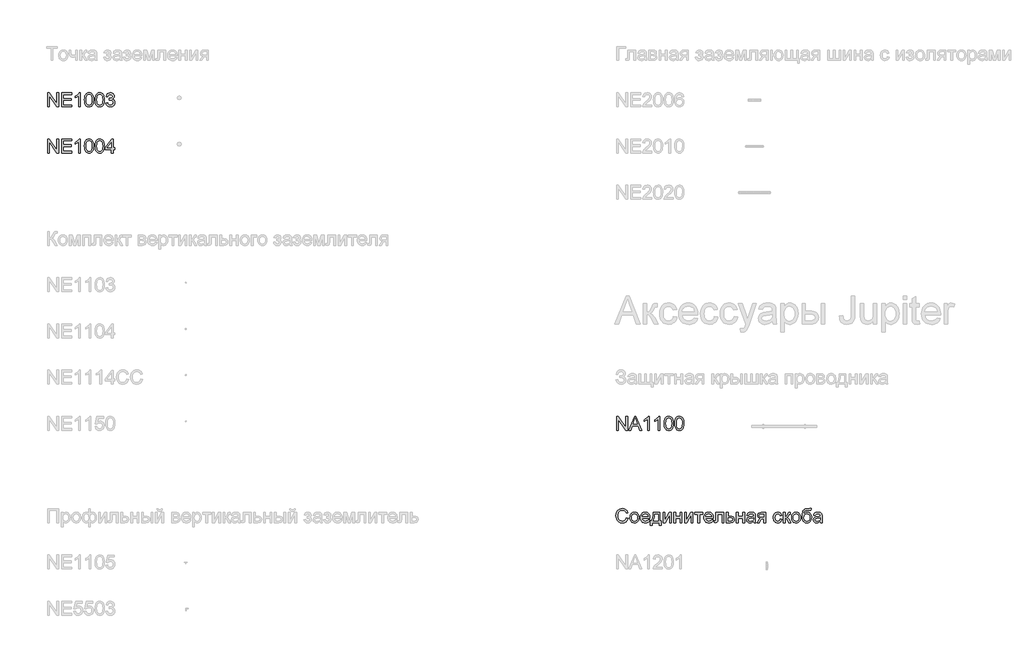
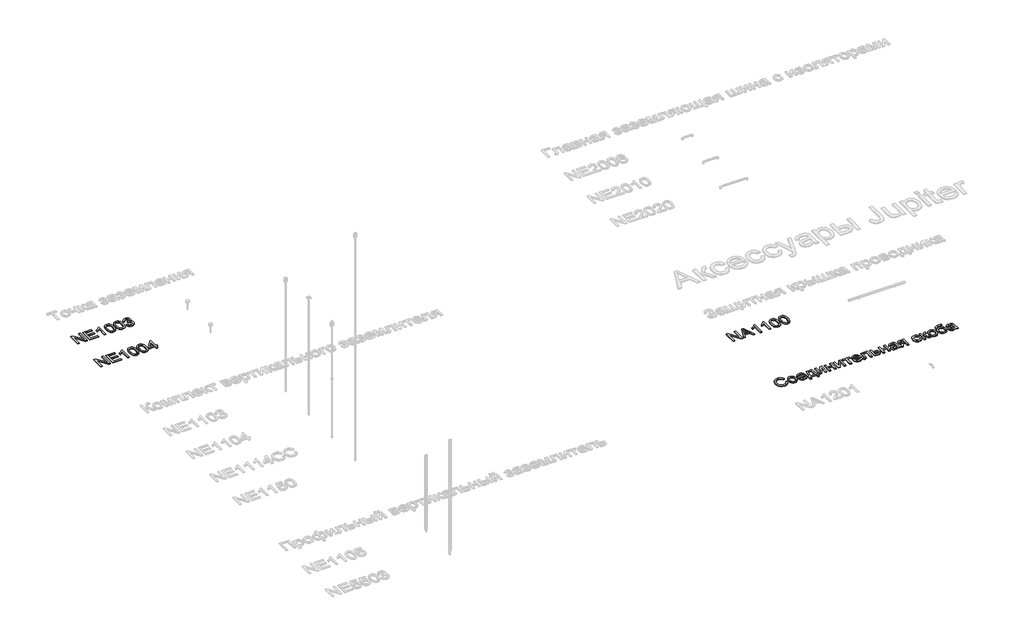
# One storey, part 75 of 124: 4 proxies.
"""IFC4 building model written with IfcOpenShell, lengths in millimetres."""

from ifc_helpers import new_model, si_unit, origin, origin_with_axes, place, context, project, spatial, polyline, outline, extrude, element, save

model = new_model("IFC4")

# Units and contexts
model_context = context("Model", 3, world=origin())
ifc_project = project(units=[si_unit("LENGTHUNIT", "METRE", prefix="MILLI")], contexts=[model_context])

# Site, building, storey
site = spatial("IfcSite", under=ifc_project)
building = spatial("IfcBuilding", under=site)
storey = spatial("IfcBuildingStorey", under=building, Name="Этаж 01", Elevation=0.0)

# Proxies
placement = place(None, origin())
element("IfcBuildingElementProxy", 1, Name="300", ObjectType="300", at=placement, inside=storey, context=model_context, shape_type="SweptSolid", body=[
    extrude(outline(polyline([(32939.8675381, -54074.498362), (32939.8675381, -53773.1294316), (32980.1874048, -53773.1294316), (33137.6408988, -54011.8848464), (33137.6408988, -53773.1294316), (33175.3120151, -53773.1294316), (33175.3120151, -54074.498362), (33134.9921484, -54074.498362), (32977.5386545, -53835.6693707), (32977.5386545, -54074.498362), (32939.8675381, -54074.498362)])), origin_with_axes(), (0.0, 0.0, 1.0), 20.0),
    extrude(outline(polyline([(33241.2364686, -54074.498362), (33241.2364686, -53773.1294316), (33457.8453874, -53773.1294316), (33457.8453874, -53810.8005479), (33278.9075849, -53810.8005479), (33278.9075849, -53900.2694491), (33448.4276083, -53900.2694491), (33448.4276083, -53937.9405654), (33278.9075849, -53937.9405654), (33278.9075849, -54036.8272457), (33462.5542769, -54036.8272457), (33462.5542769, -54074.498362), (33241.2364686, -54074.498362)])), origin_with_axes(), (0.0, 0.0, 1.0), 20.0),
    extrude(outline(polyline([(33646.2009689, -54074.498362), (33608.5298526, -54074.498362), (33608.5298526, -53839.6424963), (33572.8452991, -53865.0631421), (33533.18762, -53884.0826413), (33533.18762, -53848.4716642), (33562.7745294, -53832.3768269), (33588.4067074, -53813.228569), (33608.612626, -53792.8663006), (33621.9207572, -53773.1294316), (33646.2009689, -53773.1294316), (33646.2009689, -54074.498362)])), origin_with_axes(), (0.0, 0.0, 1.0), 20.0),
    extrude(outline(polyline([(33735.6698701, -53926.2419179), (33738.4381821, -53878.0033913), (33746.7431182, -53839.5321317), (33760.5019048, -53810.2395278), (33779.6317685, -53789.5369685), (33804.2706652, -53777.2313158), (33834.5565504, -53773.1294316), (33857.7699043, -53775.5574527), (33878.555237, -53782.8415162), (33895.9376613, -53794.6965135), (33908.9422898, -53810.8373361), (33918.7647391, -53831.1260281), (33926.6006256, -53855.4246339), (33931.7325794, -53886.2807362), (33933.4432307, -53926.2419179), (33930.7025099, -53974.2045331), (33922.4803473, -54012.5838222), (33908.8043341, -54041.9040172), (33889.7020615, -54062.68935), (33865.0079826, -54075.0777761), (33834.5565504, -54079.2072515), (33813.8080059, -54077.4138268), (33795.4139061, -54072.0335526), (33779.3742511, -54063.066429), (33765.6890409, -54050.5124559), (33752.5556537, -54027.8187353), (33743.1746628, -53999.5424055), (33737.5460683, -53965.6834664), (33735.6698701, -53926.2419179)]), holes=[polyline([(33773.3409864, -53926.1683415), (33777.7555704, -53985.4249339), (33783.2738003, -54005.6929326), (33790.9993222, -54019.7207329), (33810.7177971, -54036.0822847), (33834.5565504, -54041.5361352), (33858.3953037, -54036.0638906), (33878.1137786, -54019.6471565), (33885.8393005, -54005.5963636), (33891.3575305, -53985.3329634), (33895.7721144, -53926.1683415), (33891.5046833, -53868.2453214), (33886.1703943, -53848.0440013), (33878.7023898, -53833.682808), (33859.0207031, -53816.5211129), (33834.115092, -53810.8005479), (33810.5338561, -53815.8405312), (33791.5879334, -53830.9604812), (33783.6048941, -53846.595466), (33777.9027232, -53867.6751043), (33773.3409864, -53926.1683415)])]), origin_with_axes(), (0.0, 0.0, 1.0), 20.0),
    extrude(outline(polyline([(33966.4054575, -53926.2419179), (33969.1737695, -53878.0033913), (33977.4787055, -53839.5321317), (33991.2374922, -53810.2395278), (34010.3673559, -53789.5369685), (34035.0062525, -53777.2313158), (34065.2921378, -53773.1294316), (34088.5054917, -53775.5574527), (34109.2908244, -53782.8415162), (34126.6732487, -53794.6965135), (34139.6778772, -53810.8373361), (34149.5003265, -53831.1260281), (34157.336213, -53855.4246339), (34162.4681668, -53886.2807362), (34164.1788181, -53926.2419179), (34161.4380972, -53974.2045331), (34153.2159346, -54012.5838222), (34139.5399215, -54041.9040172), (34120.4376489, -54062.68935), (34095.7435699, -54075.0777761), (34065.2921378, -54079.2072515), (34044.5435933, -54077.4138268), (34026.1494935, -54072.0335526), (34010.1098385, -54063.066429), (33996.4246283, -54050.5124559), (33983.2912411, -54027.8187353), (33973.9102502, -53999.5424055), (33968.2816557, -53965.6834664), (33966.4054575, -53926.2419179)]), holes=[polyline([(34004.0765738, -53926.1683415), (34008.4911577, -53985.4249339), (34014.0093877, -54005.6929326), (34021.7349096, -54019.7207329), (34041.4533845, -54036.0822847), (34065.2921378, -54041.5361352), (34089.1308911, -54036.0638906), (34108.849366, -54019.6471565), (34116.5748879, -54005.5963636), (34122.0931178, -53985.3329634), (34126.5077018, -53926.1683415), (34122.2402706, -53868.2453214), (34116.9059817, -53848.0440013), (34109.4379772, -53833.682808), (34089.7562905, -53816.5211129), (34064.8506794, -53810.8005479), (34041.2694435, -53815.8405312), (34022.3235208, -53830.9604812), (34014.3404815, -53846.595466), (34008.6383105, -53867.6751043), (34004.0765738, -53926.1683415)])]), origin_with_axes(), (0.0, 0.0, 1.0), 20.0),
    extrude(outline(polyline([(34197.1410449, -53994.4472399), (34234.8121612, -53989.7383503), (34243.2458559, -54013.4115567), (34255.5974939, -54029.3960294), (34272.4740804, -54038.5011088), (34294.4826208, -54041.5361352), (34320.3079369, -54037.3606746), (34340.247141, -54024.8342927), (34352.9942521, -54006.1458873), (34357.2432892, -53983.4843564), (34353.0310403, -53961.9724567), (34340.3942938, -53944.5256531), (34321.26443, -53932.9649614), (34297.5728295, -53929.1113975), (34271.1589023, -53933.2316759), (34275.352757, -53895.5605595), (34281.3860218, -53896.0020179), (34303.9555822, -53893.2980853), (34324.1339096, -53885.1862873), (34338.3709428, -53871.4642889), (34343.1166206, -53851.9297549), (34339.6769239, -53835.6601737), (34329.3578339, -53822.4624071), (34313.6124845, -53813.7160127), (34293.8940096, -53810.8005479), (34274.1387465, -53813.7436038), (34257.9887269, -53822.5727717), (34246.1981089, -53837.2880515), (34239.5210507, -53857.8894432), (34201.8499344, -53853.1805537), (34212.9415766, -53819.3538042), (34232.6784456, -53794.0987053), (34259.680984, -53778.37175), (34292.5696344, -53773.1294316), (34316.2520379, -53775.7138026), (34338.0030608, -53783.4669156), (34356.3419783, -53795.698992), (34369.7880652, -53811.7202528), (34378.0378189, -53830.178732), (34380.7877369, -53849.7224629), (34378.1757747, -53867.9326217), (34370.3398882, -53884.4505233), (34357.390442, -53898.5220096), (34339.4378006, -53909.3929226), (34363.0190365, -53918.9210662), (34380.4934313, -53935.1446622), (34391.3091619, -53957.1807937), (34394.9144055, -53984.146544), (34393.1117837, -54003.2580136), (34387.7039184, -54020.8611671), (34378.6908095, -54036.9560044), (34366.0724571, -54051.5425255), (34350.6995882, -54063.6458431), (34333.42293, -54072.29107), (34314.2424825, -54077.4782062), (34293.1582456, -54079.2072515), (34274.1019583, -54077.731125), (34256.7379281, -54073.3027455), (34241.0661551, -54065.922113), (34227.0866393, -54055.5892274), (34215.3649992, -54042.9110942), (34206.4668534, -54028.4947185), (34200.392202, -54012.3401004), (34197.1410449, -53994.4472399)])), origin_with_axes(), (0.0, 0.0, 1.0), 20.0),
])
element("IfcBuildingElementProxy", 2, Name="300", ObjectType="300", at=placement, inside=storey, context=model_context, shape_type="SweptSolid", body=[
    extrude(outline(polyline([(32939.8675381, -55074.498362), (32939.8675381, -54773.1294316), (32980.1874048, -54773.1294316), (33137.6408988, -55011.8848464), (33137.6408988, -54773.1294316), (33175.3120151, -54773.1294316), (33175.3120151, -55074.498362), (33134.9921484, -55074.498362), (32977.5386545, -54835.6693707), (32977.5386545, -55074.498362), (32939.8675381, -55074.498362)])), origin_with_axes(), (0.0, 0.0, 1.0), 20.0),
    extrude(outline(polyline([(33241.2364686, -55074.498362), (33241.2364686, -54773.1294316), (33457.8453874, -54773.1294316), (33457.8453874, -54810.8005479), (33278.9075849, -54810.8005479), (33278.9075849, -54900.2694491), (33448.4276083, -54900.2694491), (33448.4276083, -54937.9405654), (33278.9075849, -54937.9405654), (33278.9075849, -55036.8272457), (33462.5542769, -55036.8272457), (33462.5542769, -55074.498362), (33241.2364686, -55074.498362)])), origin_with_axes(), (0.0, 0.0, 1.0), 20.0),
    extrude(outline(polyline([(33646.2009689, -55074.498362), (33608.5298526, -55074.498362), (33608.5298526, -54839.6424963), (33572.8452991, -54865.0631421), (33533.18762, -54884.0826413), (33533.18762, -54848.4716642), (33562.7745294, -54832.3768269), (33588.4067074, -54813.228569), (33608.612626, -54792.8663006), (33621.9207572, -54773.1294316), (33646.2009689, -54773.1294316), (33646.2009689, -55074.498362)])), origin_with_axes(), (0.0, 0.0, 1.0), 20.0),
    extrude(outline(polyline([(33735.6698701, -54926.2419179), (33738.4381821, -54878.0033913), (33746.7431182, -54839.5321317), (33760.5019048, -54810.2395278), (33779.6317685, -54789.5369685), (33804.2706652, -54777.2313158), (33834.5565504, -54773.1294316), (33857.7699043, -54775.5574527), (33878.555237, -54782.8415162), (33895.9376613, -54794.6965135), (33908.9422898, -54810.8373361), (33918.7647391, -54831.1260281), (33926.6006256, -54855.4246339), (33931.7325794, -54886.2807362), (33933.4432307, -54926.2419179), (33930.7025099, -54974.2045331), (33922.4803473, -55012.5838222), (33908.8043341, -55041.9040172), (33889.7020615, -55062.68935), (33865.0079826, -55075.0777761), (33834.5565504, -55079.2072515), (33813.8080059, -55077.4138268), (33795.4139061, -55072.0335526), (33779.3742511, -55063.066429), (33765.6890409, -55050.5124559), (33752.5556537, -55027.8187353), (33743.1746628, -54999.5424055), (33737.5460683, -54965.6834664), (33735.6698701, -54926.2419179)]), holes=[polyline([(33773.3409864, -54926.1683415), (33777.7555704, -54985.4249339), (33783.2738003, -55005.6929326), (33790.9993222, -55019.7207329), (33810.7177971, -55036.0822847), (33834.5565504, -55041.5361352), (33858.3953037, -55036.0638906), (33878.1137786, -55019.6471565), (33885.8393005, -55005.5963636), (33891.3575305, -54985.3329634), (33895.7721144, -54926.1683415), (33891.5046833, -54868.2453214), (33886.1703943, -54848.0440013), (33878.7023898, -54833.682808), (33859.0207031, -54816.5211129), (33834.115092, -54810.8005479), (33810.5338561, -54815.8405312), (33791.5879334, -54830.9604812), (33783.6048941, -54846.595466), (33777.9027232, -54867.6751043), (33773.3409864, -54926.1683415)])]), origin_with_axes(), (0.0, 0.0, 1.0), 20.0),
    extrude(outline(polyline([(33966.4054575, -54926.2419179), (33969.1737695, -54878.0033913), (33977.4787055, -54839.5321317), (33991.2374922, -54810.2395278), (34010.3673559, -54789.5369685), (34035.0062525, -54777.2313158), (34065.2921378, -54773.1294316), (34088.5054917, -54775.5574527), (34109.2908244, -54782.8415162), (34126.6732487, -54794.6965135), (34139.6778772, -54810.8373361), (34149.5003265, -54831.1260281), (34157.336213, -54855.4246339), (34162.4681668, -54886.2807362), (34164.1788181, -54926.2419179), (34161.4380972, -54974.2045331), (34153.2159346, -55012.5838222), (34139.5399215, -55041.9040172), (34120.4376489, -55062.68935), (34095.7435699, -55075.0777761), (34065.2921378, -55079.2072515), (34044.5435933, -55077.4138268), (34026.1494935, -55072.0335526), (34010.1098385, -55063.066429), (33996.4246283, -55050.5124559), (33983.2912411, -55027.8187353), (33973.9102502, -54999.5424055), (33968.2816557, -54965.6834664), (33966.4054575, -54926.2419179)]), holes=[polyline([(34004.0765738, -54926.1683415), (34008.4911577, -54985.4249339), (34014.0093877, -55005.6929326), (34021.7349096, -55019.7207329), (34041.4533845, -55036.0822847), (34065.2921378, -55041.5361352), (34089.1308911, -55036.0638906), (34108.849366, -55019.6471565), (34116.5748879, -55005.5963636), (34122.0931178, -54985.3329634), (34126.5077018, -54926.1683415), (34122.2402706, -54868.2453214), (34116.9059817, -54848.0440013), (34109.4379772, -54833.682808), (34089.7562905, -54816.5211129), (34064.8506794, -54810.8005479), (34041.2694435, -54815.8405312), (34022.3235208, -54830.9604812), (34014.3404815, -54846.595466), (34008.6383105, -54867.6751043), (34004.0765738, -54926.1683415)])]), origin_with_axes(), (0.0, 0.0, 1.0), 20.0),
    extrude(outline(polyline([(34319.5721729, -55074.498362), (34319.5721729, -55003.8650189), (34183.0143763, -55003.8650189), (34183.0143763, -54966.1939026), (34328.9899519, -54777.8383211), (34357.2432892, -54777.8383211), (34357.2432892, -54966.1939026), (34394.9144055, -54966.1939026), (34394.9144055, -55003.8650189), (34357.2432892, -55003.8650189), (34357.2432892, -55074.498362), (34319.5721729, -55074.498362)]), holes=[polyline([(34319.5721729, -54966.1939026), (34319.5721729, -54849.7960393), (34229.3675076, -54966.1939026), (34319.5721729, -54966.1939026)])]), origin_with_axes(), (0.0, 0.0, 1.0), 20.0),
])
element("IfcBuildingElementProxy", 3, Name="300", ObjectType="300", at=placement, inside=storey, context=model_context, shape_type="SweptSolid", body=[
    extrude(outline(polyline([(45239.8675381, -61074.498362), (45239.8675381, -60773.1294316), (45280.1874048, -60773.1294316), (45437.6408988, -61011.8848464), (45437.6408988, -60773.1294316), (45475.3120151, -60773.1294316), (45475.3120151, -61074.498362), (45434.9921484, -61074.498362), (45277.5386545, -60835.6693707), (45277.5386545, -61074.498362), (45239.8675381, -61074.498362)])), origin_with_axes(), (0.0, 0.0, 1.0), 20.0),
    extrude(outline(polyline([(45506.1405263, -61074.498362), (45626.4379387, -60773.1294316), (45658.5172487, -60773.1294316), (45778.8146611, -61074.498362), (45739.0098292, -61074.498362), (45704.5024981, -60980.3205712), (45580.3791129, -60980.3205712), (45545.9453581, -61074.498362), (45506.1405263, -61074.498362)]), holes=[polyline([(45594.2114759, -60942.6494549), (45690.7437114, -60942.6494549), (45663.5940202, -60868.5580211), (45642.4775937, -60810.8005479), (45623.7156119, -60862.083298), (45594.2114759, -60942.6494549)])]), origin_with_axes(), (0.0, 0.0, 1.0), 20.0),
    extrude(outline(polyline([(45946.2009689, -61074.498362), (45908.5298526, -61074.498362), (45908.5298526, -60839.6424963), (45872.8452991, -60865.0631421), (45833.18762, -60884.0826413), (45833.18762, -60848.4716642), (45862.7745294, -60832.3768269), (45888.4067074, -60813.228569), (45908.612626, -60792.8663006), (45921.9207572, -60773.1294316), (45946.2009689, -60773.1294316), (45946.2009689, -61074.498362)])), origin_with_axes(), (0.0, 0.0, 1.0), 20.0),
    extrude(outline(polyline([(46176.9365563, -61074.498362), (46139.26544, -61074.498362), (46139.26544, -60839.6424963), (46103.5808864, -60865.0631421), (46063.9232073, -60884.0826413), (46063.9232073, -60848.4716642), (46093.5101168, -60832.3768269), (46119.1422948, -60813.228569), (46139.3482134, -60792.8663006), (46152.6563446, -60773.1294316), (46176.9365563, -60773.1294316), (46176.9365563, -61074.498362)])), origin_with_axes(), (0.0, 0.0, 1.0), 20.0),
    extrude(outline(polyline([(46266.4054575, -60926.2419179), (46269.1737695, -60878.0033913), (46277.4787055, -60839.5321317), (46291.2374922, -60810.2395278), (46310.3673559, -60789.5369685), (46335.0062525, -60777.2313158), (46365.2921378, -60773.1294316), (46388.5054917, -60775.5574527), (46409.2908244, -60782.8415162), (46426.6732487, -60794.6965135), (46439.6778772, -60810.8373361), (46449.5003265, -60831.1260281), (46457.336213, -60855.4246339), (46462.4681668, -60886.2807362), (46464.1788181, -60926.2419179), (46461.4380972, -60974.2045331), (46453.2159346, -61012.5838222), (46439.5399215, -61041.9040172), (46420.4376489, -61062.68935), (46395.7435699, -61075.0777761), (46365.2921378, -61079.2072515), (46344.5435933, -61077.4138268), (46326.1494935, -61072.0335526), (46310.1098385, -61063.066429), (46296.4246283, -61050.5124559), (46283.2912411, -61027.8187353), (46273.9102502, -60999.5424055), (46268.2816557, -60965.6834664), (46266.4054575, -60926.2419179)]), holes=[polyline([(46304.0765738, -60926.1683415), (46308.4911577, -60985.4249339), (46314.0093877, -61005.6929326), (46321.7349096, -61019.7207329), (46341.4533845, -61036.0822847), (46365.2921378, -61041.5361352), (46389.1308911, -61036.0638906), (46408.849366, -61019.6471565), (46416.5748879, -61005.5963636), (46422.0931178, -60985.3329634), (46426.5077018, -60926.1683415), (46422.2402706, -60868.2453214), (46416.9059817, -60848.0440013), (46409.4379772, -60833.682808), (46389.7562905, -60816.5211129), (46364.8506794, -60810.8005479), (46341.2694435, -60815.8405312), (46322.3235208, -60830.9604812), (46314.3404815, -60846.595466), (46308.6383105, -60867.6751043), (46304.0765738, -60926.1683415)])]), origin_with_axes(), (0.0, 0.0, 1.0), 20.0),
    extrude(outline(polyline([(46497.1410449, -60926.2419179), (46499.9093569, -60878.0033913), (46508.2142929, -60839.5321317), (46521.9730795, -60810.2395278), (46541.1029433, -60789.5369685), (46565.7418399, -60777.2313158), (46596.0277252, -60773.1294316), (46619.2410791, -60775.5574527), (46640.0264118, -60782.8415162), (46657.4088361, -60794.6965135), (46670.4134646, -60810.8373361), (46680.2359139, -60831.1260281), (46688.0718004, -60855.4246339), (46693.2037542, -60886.2807362), (46694.9144055, -60926.2419179), (46692.1736846, -60974.2045331), (46683.951522, -61012.5838222), (46670.2755088, -61041.9040172), (46651.1732362, -61062.68935), (46626.4791573, -61075.0777761), (46596.0277252, -61079.2072515), (46575.2791806, -61077.4138268), (46556.8850809, -61072.0335526), (46540.8454259, -61063.066429), (46527.1602157, -61050.5124559), (46514.0268284, -61027.8187353), (46504.6458376, -60999.5424055), (46499.017243, -60965.6834664), (46497.1410449, -60926.2419179)]), holes=[polyline([(46534.8121612, -60926.1683415), (46539.2267451, -60985.4249339), (46544.744975, -61005.6929326), (46552.4704969, -61019.7207329), (46572.1889719, -61036.0822847), (46596.0277252, -61041.5361352), (46619.8664785, -61036.0638906), (46639.5849534, -61019.6471565), (46647.3104753, -61005.5963636), (46652.8287052, -60985.3329634), (46657.2432892, -60926.1683415), (46652.975858, -60868.2453214), (46647.6415691, -60848.0440013), (46640.1735646, -60833.682808), (46620.4918778, -60816.5211129), (46595.5862668, -60810.8005479), (46572.0050309, -60815.8405312), (46553.0591081, -60830.9604812), (46545.0760688, -60846.595466), (46539.3738979, -60867.6751043), (46534.8121612, -60926.1683415)])]), origin_with_axes(), (0.0, 0.0, 1.0), 20.0),
])
element("IfcBuildingElementProxy", 4, Name="300", ObjectType="300", at=placement, inside=storey, context=model_context, shape_type="SweptSolid", body=[
    extrude(outline(polyline([(45451.7675674, -62967.371125), (45489.4386837, -62977.0832097), (45481.9844747, -63000.510395), (45472.0562594, -63020.9807288), (45459.6540376, -63038.494211), (45444.7778095, -63053.0508417), (45427.7632672, -63064.494271), (45408.9461031, -63072.6681491), (45388.3263173, -63077.5724759), (45365.9039097, -63079.2072515), (45322.2087257, -63074.2592387), (45287.5082565, -63059.4152002), (45260.9103883, -63035.1901708), (45241.5230071, -63002.0991854), (45229.6864039, -62963.1956644), (45225.7408695, -62921.5330284), (45230.2014387, -62877.5895241), (45243.5831463, -62839.6424963), (45265.1870165, -62808.8967585), (45294.3140734, -62786.5571244), (45328.8581928, -62772.9546876), (45366.7132501, -62768.420542), (45408.0172011, -62774.2882598), (45425.9859373, -62781.6229071), (45442.1658473, -62791.8914133), (45456.2902166, -62804.8224654), (45468.0923309, -62820.1447505), (45484.7297941, -62857.9630196), (45447.0586778, -62866.9393403), (45433.998867, -62839.4677523), (45416.1565902, -62820.6229971), (45393.3111183, -62809.724493), (45365.2417221, -62806.0916583), (45332.8865006, -62810.1199662), (45306.3070265, -62822.2048897), (45286.1378961, -62841.0772361), (45273.0137059, -62865.4678123), (45265.8124159, -62893.0405679), (45263.4119858, -62921.459452), (45266.2538743, -62956.2610888), (45274.7795395, -62986.353836), (45289.3108783, -63010.5880624), (45310.1697874, -63027.8141368), (45335.176566, -63038.1056356), (45362.1515133, -63041.5361352), (45393.5962269, -63036.8640339), (45419.798622, -63022.8477299), (45439.5814763, -62999.634376), (45451.7675674, -62967.371125)])), origin_with_axes(), (0.0, 0.0, 1.0), 20.0),
    extrude(outline(polyline([(45527.1098, -62963.8394579), (45529.1469465, -62935.1768519), (45535.2583862, -62910.4781745), (45545.4441189, -62889.7434255), (45559.7041448, -62872.972605), (45574.0607396, -62862.2534434), (45589.9072566, -62854.5968994), (45607.2436956, -62850.002973), (45626.0700567, -62848.4716642), (45646.8530902, -62850.336366), (45665.6449623, -62855.9304716), (45682.4456732, -62865.2539809), (45697.2552228, -62878.306894), (45709.3424456, -62894.6477523), (45717.9761761, -62913.8350977), (45723.1564145, -62935.8689299), (45724.8831606, -62960.7492491), (45721.82974, -62998.8066415), (45712.6694784, -63027.7773486), (45697.66909, -63049.4731893), (45677.0952894, -63065.7059823), (45652.6587279, -63075.8319342), (45626.0700567, -63079.2072515), (45604.9835206, -63077.3494475), (45586.0169045, -63071.7760352), (45569.1702083, -63062.4870149), (45554.4434322, -63049.4823863), (45542.4849681, -63032.9828788), (45533.943208, -63013.2092216), (45528.818152, -62990.1614146), (45527.1098, -62963.8394579)]), holes=[polyline([(45564.7809163, -62963.7658815), (45569.1403179, -62997.8593454), (45582.2185229, -63022.1487541), (45601.9002096, -63036.6892899), (45626.0700567, -63041.5361352), (45650.1295392, -63036.6616988), (45669.7744377, -63022.0383895), (45682.8526426, -62997.427084), (45687.2120443, -62962.5886591), (45682.8250515, -62929.4884766), (45669.6640731, -62905.5301616), (45649.9915834, -62890.9896258), (45626.0700567, -62886.1427805), (45601.9002096, -62890.9712317), (45582.2185229, -62905.4565852), (45569.1403179, -62929.6908117), (45564.7809163, -62963.7658815)])]), origin_with_axes(), (0.0, 0.0, 1.0), 20.0),
    extrude(outline(polyline([(45922.2150628, -63008.5739085), (45959.1504151, -63013.282798), (45945.8422839, -63041.1130709), (45924.6062958, -63061.9167978), (45895.9206972, -63074.8846381), (45860.2637348, -63079.2072515), (45836.8894325, -63077.3425497), (45816.0627131, -63071.7484441), (45797.7835765, -63062.4249348), (45782.0520226, -63049.3720217), (45769.4014805, -63032.9529884), (45760.365379, -63013.5311184), (45754.9437181, -62991.1064115), (45753.1364978, -62965.6788678), (45754.9621122, -62939.3891007), (45760.4389554, -62916.2171336), (45769.5670274, -62896.1629663), (45782.3463282, -62879.226599), (45798.0364953, -62865.771315), (45815.8971662, -62856.1603979), (45835.9283408, -62850.3938476), (45858.1300192, -62848.4716642), (45879.616627, -62850.3892491), (45899.0476942, -62856.1420038), (45916.4232206, -62865.7299283), (45931.7432065, -62879.1530226), (45944.2488951, -62896.0526017), (45953.1815297, -62916.0699808), (45958.5411106, -62939.2051598), (45960.3276375, -62965.4581386), (45960.1069083, -62975.6116817), (45790.8076141, -62975.6116817), (45797.3283225, -63003.8098366), (45812.4758636, -63024.5399871), (45834.3372512, -63037.2870982), (45860.9994988, -63041.5361352), (45881.0490675, -63039.5679666), (45897.9348511, -63033.6634605), (45911.6568495, -63023.4547352), (45922.2150628, -63008.5739085)]), holes=[polyline([(45790.8076141, -62937.9405654), (45922.6565212, -62937.9405654), (45917.5613556, -62918.0381495), (45907.5733594, -62903.8011162), (45885.6108043, -62890.5573644), (45857.9828664, -62886.1427805), (45832.5898117, -62889.6652506), (45811.5929469, -62900.2326609), (45796.9972287, -62916.7045772), (45790.8076141, -62937.9405654)])]), origin_with_axes(), (0.0, 0.0, 1.0), 20.0),
    extrude(outline(polyline([(46030.9609806, -62853.1805537), (46172.2276667, -62853.1805537), (46172.2276667, -63036.8272457), (46200.481004, -63036.8272457), (46200.481004, -63135.713926), (46162.8098876, -63135.713926), (46162.8098876, -63074.498362), (46007.4165329, -63074.498362), (46007.4165329, -63135.713926), (45969.7454166, -63135.713926), (45969.7454166, -63036.8272457), (45993.2898643, -63036.8272457), (46010.4055741, -63005.897567), (46022.3893301, -62964.979892), (46029.2411322, -62914.074221), (46030.9609806, -62853.1805537)]), holes=[polyline([(46063.9232073, -62890.85167), (46060.8329986, -62936.9748752), (46055.0940395, -62976.6785395), (46046.70633, -63009.962663), (46035.6698701, -63036.8272457), (46134.5565504, -63036.8272457), (46134.5565504, -62890.85167), (46063.9232073, -62890.85167)])]), origin_with_axes(), (0.0, 0.0, 1.0), 20.0),
    extrude(outline(polyline([(46242.8610098, -62853.1805537), (46280.5321261, -62853.1805537), (46280.5321261, -63021.9648131), (46373.0912361, -62853.1805537), (46421.7988123, -62853.1805537), (46421.7988123, -63074.498362), (46384.1276959, -63074.498362), (46384.1276959, -62906.7441722), (46292.1571972, -63074.498362), (46242.8610098, -63074.498362), (46242.8610098, -62853.1805537)])), origin_with_axes(), (0.0, 0.0, 1.0), 20.0),
    extrude(outline(polyline([(46478.3054867, -62853.1805537), (46515.976603, -62853.1805537), (46515.976603, -62937.9405654), (46614.8632833, -62937.9405654), (46614.8632833, -62853.1805537), (46652.5343996, -62853.1805537), (46652.5343996, -63074.498362), (46614.8632833, -63074.498362), (46614.8632833, -62975.6116817), (46515.976603, -62975.6116817), (46515.976603, -63074.498362), (46478.3054867, -63074.498362), (46478.3054867, -62853.1805537)])), origin_with_axes(), (0.0, 0.0, 1.0), 20.0),
    extrude(outline(polyline([(46709.0410741, -62853.1805537), (46746.7121904, -62853.1805537), (46746.7121904, -63021.9648131), (46839.2713004, -62853.1805537), (46887.9788765, -62853.1805537), (46887.9788765, -63074.498362), (46850.3077602, -63074.498362), (46850.3077602, -62906.7441722), (46758.3372614, -63074.498362), (46709.0410741, -63074.498362), (46709.0410741, -62853.1805537)])), origin_with_axes(), (0.0, 0.0, 1.0), 20.0),
    extrude(outline(polyline([(46925.6499928, -62853.1805537), (47104.5877953, -62853.1805537), (47104.5877953, -62890.85167), (47033.9544522, -62890.85167), (47033.9544522, -63074.498362), (46996.2833359, -63074.498362), (46996.2833359, -62890.85167), (46925.6499928, -62890.85167), (46925.6499928, -62853.1805537)])), origin_with_axes(), (0.0, 0.0, 1.0), 20.0),
    extrude(outline(polyline([(47292.5019184, -63008.5739085), (47329.4372708, -63013.282798), (47316.1291396, -63041.1130709), (47294.8931514, -63061.9167978), (47266.2075528, -63074.8846381), (47230.5505904, -63079.2072515), (47207.1762882, -63077.3425497), (47186.3495687, -63071.7484441), (47168.0704321, -63062.4249348), (47152.3388783, -63049.3720217), (47139.6883362, -63032.9529884), (47130.6522347, -63013.5311184), (47125.2305738, -62991.1064115), (47123.4233535, -62965.6788678), (47125.2489679, -62939.3891007), (47130.7258111, -62916.2171336), (47139.8538831, -62896.1629663), (47152.6331839, -62879.226599), (47168.323351, -62865.771315), (47186.1840218, -62856.1603979), (47206.2151965, -62850.3938476), (47228.4168749, -62848.4716642), (47249.9034827, -62850.3892491), (47269.3345498, -62856.1420038), (47286.7100763, -62865.7299283), (47302.0300621, -62879.1530226), (47314.5357507, -62896.0526017), (47323.4683854, -62916.0699808), (47328.8279662, -62939.2051598), (47330.6144931, -62965.4581386), (47330.3937639, -62975.6116817), (47161.0944698, -62975.6116817), (47167.6151781, -63003.8098366), (47182.7627193, -63024.5399871), (47204.6241068, -63037.2870982), (47231.2863544, -63041.5361352), (47251.3359232, -63039.5679666), (47268.2217068, -63033.6634605), (47281.9437052, -63023.4547352), (47292.5019184, -63008.5739085)]), holes=[polyline([(47161.0944698, -62937.9405654), (47292.9433768, -62937.9405654), (47287.8482112, -62918.0381495), (47277.860215, -62903.8011162), (47255.8976599, -62890.5573644), (47228.2697221, -62886.1427805), (47202.8766674, -62889.6652506), (47181.8798025, -62900.2326609), (47167.2840843, -62916.7045772), (47161.0944698, -62937.9405654)])]), origin_with_axes(), (0.0, 0.0, 1.0), 20.0),
    extrude(outline(polyline([(47387.1211676, -62853.1805537), (47556.641191, -62853.1805537), (47556.641191, -63074.2776328), (47518.9700747, -63074.2776328), (47518.9700747, -62890.85167), (47424.7922839, -62890.85167), (47424.7922839, -62996.4338026), (47422.2538981, -63045.1413788), (47417.4990233, -63056.1686416), (47408.3111705, -63065.7059823), (47394.3684429, -63072.3002671), (47375.3489438, -63074.498362), (47344.7411618, -63072.5853756), (47344.7411618, -63036.8272457), (47361.5901571, -63036.8272457), (47378.6230935, -63034.5095891), (47385.4289104, -63027.1519492), (47387.1211676, -62994.3000871), (47387.1211676, -62853.1805537)])), origin_with_axes(), (0.0, 0.0, 1.0), 20.0),
    extrude(outline(polyline([(47613.1478654, -62853.1805537), (47650.8189817, -62853.1805537), (47650.8189817, -62933.2316759), (47694.2290572, -62933.2316759), (47731.8633853, -62937.9497624), (47747.0109264, -62943.8473707), (47759.7120523, -62952.1040222), (47769.7552308, -62962.4346085), (47776.9289297, -62974.554021), (47782.6678888, -63004.1593245), (47777.7842553, -63031.1158777), (47763.1333549, -63053.8601821), (47751.9014577, -63062.8893858), (47737.7403002, -63069.338817), (47700.6302039, -63074.498362), (47613.1478654, -63074.498362), (47613.1478654, -62853.1805537)]), holes=[polyline([(47650.8189817, -63036.8272457), (47685.9885005, -63036.8272457), (47713.2761475, -63034.84988), (47731.4219269, -63028.9177828), (47741.6030611, -63018.7918309), (47744.9967725, -63004.2329009), (47742.4859779, -62991.9272482), (47734.953594, -62981.0563352), (47718.8127715, -62973.4411779), (47690.4766608, -62970.9027922), (47650.8189817, -62970.9027922), (47650.8189817, -63036.8272457)])]), origin_with_axes(), (0.0, 0.0, 1.0), 20.0),
    extrude(outline(polyline([(47829.7567842, -62853.1805537), (47867.4279005, -62853.1805537), (47867.4279005, -62937.9405654), (47966.3145808, -62937.9405654), (47966.3145808, -62853.1805537), (48003.9856971, -62853.1805537), (48003.9856971, -63074.498362), (47966.3145808, -63074.498362), (47966.3145808, -62975.6116817), (47867.4279005, -62975.6116817), (47867.4279005, -63074.498362), (47829.7567842, -63074.498362), (47829.7567842, -62853.1805537)])), origin_with_axes(), (0.0, 0.0, 1.0), 20.0),
    extrude(outline(polyline([(48201.7590577, -63046.2450248), (48183.7604311, -63061.6776745), (48165.2283756, -63071.7760352), (48145.7398269, -63077.3494475), (48124.8717207, -63079.2072515), (48093.390219, -63074.7374853), (48070.167668, -63061.3281866), (48055.8478614, -63040.9659181), (48051.0745925, -63015.6372428), (48052.8772143, -63000.0206521), (48058.2850796, -62985.8388012), (48066.6268038, -62973.6986953), (48077.2310023, -62964.2073398), (48103.6081414, -62951.8465048), (48136.2024862, -62946.1811221), (48174.7197311, -62940.2214338), (48201.5383285, -62933.2316759), (48201.7590577, -62924.8439664), (48199.1654897, -62908.0317592), (48191.3847855, -62897.0320875), (48173.9839671, -62888.8651072), (48149.7405436, -62886.1427805), (48127.2997419, -62887.9545993), (48111.6279689, -62893.3900558), (48100.9409969, -62903.4424313), (48093.4545983, -62919.1050072), (48055.783482, -62914.3961177), (48062.3225845, -62893.794726), (48072.0806544, -62877.6079182), (48085.9681997, -62865.228689), (48104.8957284, -62856.0500333), (48128.0447029, -62850.3662564), (48154.5965859, -62848.4716642), (48180.0632171, -62850.1455272), (48200.2507415, -62855.1671165), (48215.4718591, -62862.7178944), (48226.0392694, -62871.9793237), (48233.0474214, -62883.4296508), (48237.590764, -62897.5471223), (48239.430174, -62930.5093491), (48239.430174, -62977.3775153), (48241.3431604, -63042.8237222), (48248.8479531, -63074.498362), (48211.1768368, -63074.498362), (48201.7590577, -63046.2450248)]), holes=[polyline([(48201.7590577, -62970.9027922), (48140.9849521, -62982.4542868), (48108.5745483, -62988.5611279), (48093.8960567, -62998.4939418), (48088.7457088, -63012.9884924), (48091.550809, -63024.1904992), (48099.9661097, -63033.3691549), (48113.8076697, -63039.4943902), (48132.8915482, -63041.5361352), (48153.125058, -63039.282858), (48171.0041229, -63032.5230264), (48185.4986735, -63022.5626213), (48195.5786402, -63010.707624), (48200.0484064, -62998.4939418), (48201.5383285, -62981.57137), (48201.7590577, -62970.9027922)])]), origin_with_axes(), (0.0, 0.0, 1.0), 20.0),
    extrude(outline(polyline([(48460.7479823, -62853.1805537), (48460.7479823, -63074.498362), (48423.076866, -63074.498362), (48423.076866, -62989.7383503), (48402.5490507, -62989.7383503), (48374.5900191, -62994.5208163), (48363.4248005, -63004.9502708), (48348.3232446, -63026.6737026), (48318.3040738, -63074.498362), (48274.7468456, -63074.498362), (48312.5651147, -63014.018562), (48329.2669572, -62992.3135243), (48344.6444246, -62982.675016), (48318.892685, -62974.7839472), (48300.7928908, -62959.7927559), (48290.0875248, -62939.8535518), (48286.5190694, -62917.1184445), (48291.3935058, -62891.3299166), (48306.0168151, -62870.9124659), (48329.8739625, -62857.6135317), (48362.4499132, -62853.1805537), (48460.7479823, -62853.1805537)]), holes=[polyline([(48423.076866, -62890.85167), (48373.4127967, -62890.85167), (48347.7622246, -62893.0313708), (48333.2032946, -62899.5704733), (48326.4434629, -62909.0342376), (48324.1901857, -62919.987924), (48327.5103207, -62934.3445189), (48337.4707257, -62944.3049239), (48355.8740225, -62950.1266565), (48384.5228329, -62952.067234), (48423.076866, -62952.067234), (48423.076866, -62890.85167)])]), origin_with_axes(), (0.0, 0.0, 1.0), 20.0),
    extrude(outline(polyline([(48776.2435814, -62994.4472399), (48813.9146977, -62999.1561294), (48803.4116667, -63032.6609821), (48783.6747977, -63057.9804604), (48756.5618946, -63073.9005538), (48723.9307617, -63079.2072515), (48702.8028388, -63077.3563453), (48683.8592153, -63071.8036264), (48667.0998912, -63062.5490949), (48652.5248664, -63049.5927509), (48640.7273507, -63033.1783162), (48632.3005537, -63013.5495125), (48627.2444756, -62990.7063398), (48625.5591162, -62964.6487982), (48628.4377928, -62931.1255514), (48637.0738226, -62902.0720709), (48651.6051614, -62878.6103966), (48672.1697649, -62861.8625688), (48696.7718734, -62851.8193903), (48723.4157269, -62848.4716642), (48755.2467165, -62853.0701891), (48780.6949535, -62866.8657639), (48798.9510975, -62889.1226246), (48809.2058082, -62919.1050072), (48771.5346918, -62923.8138968), (48764.7012838, -62907.3787686), (48754.0602971, -62895.5973477), (48740.2003429, -62888.5064223), (48723.7100325, -62886.1427805), (48699.3654414, -62890.7964877), (48680.0424396, -62904.7576094), (48667.4332843, -62928.7803037), (48663.2302325, -62963.6187287), (48667.3413138, -62998.9262031), (48679.6745577, -63023.0316709), (48698.6480716, -63036.9100191), (48722.6799629, -63041.5361352), (48742.1869057, -63038.6482616), (48758.1805754, -63029.9846406), (48769.8148435, -63015.3245431), (48776.2435814, -62994.4472399)])), origin_with_axes(), (0.0, 0.0, 1.0), 20.0),
    extrude(outline(polyline([(48846.8769245, -62853.1805537), (48884.5480408, -62853.1805537), (48884.5480408, -62947.3583445), (48899.8703259, -62945.6660873), (48909.7847456, -62940.5893158), (48918.5587312, -62927.3455639), (48930.4597138, -62901.1523659), (48947.6398029, -62867.1232813), (48962.7965411, -62856.0500333), (48990.3509026, -62853.1805537), (48997.5613897, -62853.1805537), (48997.5613897, -62891.0723992), (48987.4078466, -62890.85167), (48969.0137469, -62894.8247956), (48956.0643006, -62919.620042), (48940.8707742, -62946.4386395), (48919.5704067, -62959.5720267), (48931.5081774, -62964.874126), (48943.3355836, -62974.2321242), (48966.6593021, -63005.1158177), (49006.9791688, -63074.498362), (48964.1577045, -63074.498362), (48924.6471782, -63006.5873457), (48904.7815505, -62977.8557619), (48895.4925301, -62972.6410346), (48884.5480408, -62970.9027922), (48884.5480408, -63074.498362), (48846.8769245, -63074.498362), (48846.8769245, -62853.1805537)])), origin_with_axes(), (0.0, 0.0, 1.0), 20.0),
    extrude(outline(polyline([(49021.1058374, -62963.8394579), (49023.1429839, -62935.1768519), (49029.2544236, -62910.4781745), (49039.4401563, -62889.7434255), (49053.7001821, -62872.972605), (49068.056777, -62862.2534434), (49083.903294, -62854.5968994), (49101.239733, -62850.002973), (49120.0660941, -62848.4716642), (49140.8491275, -62850.336366), (49159.6409997, -62855.9304716), (49176.4417106, -62865.2539809), (49191.2512601, -62878.306894), (49203.3384829, -62894.6477523), (49211.9722135, -62913.8350977), (49217.1524519, -62935.8689299), (49218.879198, -62960.7492491), (49215.8257774, -62998.8066415), (49206.6655157, -63027.7773486), (49191.6651274, -63049.4731893), (49171.0913268, -63065.7059823), (49146.6547653, -63075.8319342), (49120.0660941, -63079.2072515), (49098.979558, -63077.3494475), (49080.0129419, -63071.7760352), (49063.1662457, -63062.4870149), (49048.4394696, -63049.4823863), (49036.4810055, -63032.9828788), (49027.9392454, -63013.2092216), (49022.8141894, -62990.1614146), (49021.1058374, -62963.8394579)]), holes=[polyline([(49058.7769537, -62963.7658815), (49063.1363553, -62997.8593454), (49076.2145603, -63022.1487541), (49095.896247, -63036.6892899), (49120.0660941, -63041.5361352), (49144.1255766, -63036.6616988), (49163.7704751, -63022.0383895), (49176.84868, -62997.427084), (49181.2080817, -62962.5886591), (49176.8210889, -62929.4884766), (49163.6601105, -62905.5301616), (49143.9876208, -62890.9896258), (49120.0660941, -62886.1427805), (49095.896247, -62890.9712317), (49076.2145603, -62905.4565852), (49063.1363553, -62929.6908117), (49058.7769537, -62963.7658815)])]), origin_with_axes(), (0.0, 0.0, 1.0), 20.0),
    extrude(outline(polyline([(49416.6525586, -62768.420542), (49449.6147854, -62768.420542), (49446.04633, -62786.3271981), (49439.9027007, -62797.8143134), (49431.3862325, -62804.6109333), (49420.6992605, -62808.4461031), (49374.5668583, -62810.8005479), (49336.2611456, -62812.9710516), (49312.4315894, -62819.4825629), (49298.176162, -62830.7765402), (49288.5928361, -62847.2944418), (49282.9550445, -62869.1650264), (49280.5362204, -62896.5170527), (49295.6837615, -62875.4742026), (49313.1673533, -62860.4646172), (49333.0053899, -62851.4699024), (49355.2162654, -62848.4716642), (49375.7394822, -62850.3777528), (49394.414092, -62856.0960185), (49411.2400947, -62865.6264615), (49426.2174905, -62878.9690816), (49438.5139462, -62895.5628588), (49447.2971288, -62914.8467731), (49452.5670384, -62936.8208246), (49454.3236749, -62961.4850131), (49450.837993, -62997.4454781), (49440.3809473, -63026.3058206), (49425.1414356, -63048.7374253), (49407.3083559, -63065.4116767), (49384.7204014, -63075.7583578), (49355.2162654, -63079.2072515), (49321.214772, -63074.7650764), (49295.7297468, -63061.4385512), (49276.9769621, -63041.1866473), (49263.1721902, -63015.9683366), (49254.6741161, -62977.9937176), (49251.8414247, -62919.4728892), (49253.6279517, -62879.8083124), (49258.9875325, -62847.1932742), (49267.9201672, -62821.6277748), (49280.4258558, -62803.1118142), (49296.6379554, -62789.9945218), (49316.6898234, -62780.6250272), (49340.5814598, -62775.0033305), (49368.3128644, -62773.1294316), (49410.2514119, -62772.283303), (49416.6525586, -62768.420542)]), holes=[polyline([(49416.6525586, -62960.3077907), (49412.5690684, -62930.6656989), (49400.318598, -62906.9281132), (49380.6369113, -62891.3391137), (49354.2597722, -62886.1427805), (49326.7605931, -62891.6334192), (49315.6735494, -62898.4967177), (49306.3615364, -62908.1053356), (49293.7247899, -62933.7559077), (49289.5125411, -62966.7825138), (49294.1662483, -62998.7974444), (49308.12737, -63022.2959069), (49328.9127027, -63036.7260781), (49354.039043, -63041.5361352), (49379.294142, -63035.9719201), (49399.2885284, -63019.2792745), (49412.311551, -62993.4079732), (49416.6525586, -62960.3077907)])]), origin_with_axes(), (0.0, 0.0, 1.0), 20.0),
    extrude(outline(polyline([(49642.6792564, -63046.2450248), (49624.6806298, -63061.6776745), (49606.1485743, -63071.7760352), (49586.6600256, -63077.3494475), (49565.7919194, -63079.2072515), (49534.3104177, -63074.7374853), (49511.0878668, -63061.3281866), (49496.7680601, -63040.9659181), (49491.9947912, -63015.6372428), (49493.797413, -63000.0206521), (49499.2052783, -62985.8388012), (49507.5470025, -62973.6986953), (49518.1512011, -62964.2073398), (49544.5283401, -62951.8465048), (49577.1226849, -62946.1811221), (49615.6399298, -62940.2214338), (49642.4585272, -62933.2316759), (49642.6792564, -62924.8439664), (49640.0856884, -62908.0317592), (49632.3049842, -62897.0320875), (49614.9041658, -62888.8651072), (49590.6607423, -62886.1427805), (49568.2199406, -62887.9545993), (49552.5481676, -62893.3900558), (49541.8611956, -62903.4424313), (49534.374797, -62919.1050072), (49496.7036807, -62914.3961177), (49503.2427832, -62893.794726), (49513.0008531, -62877.6079182), (49526.8883984, -62865.228689), (49545.8159271, -62856.0500333), (49568.9649016, -62850.3662564), (49595.5167846, -62848.4716642), (49620.9834158, -62850.1455272), (49641.1709402, -62855.1671165), (49656.3920578, -62862.7178944), (49666.9594681, -62871.9793237), (49673.9676201, -62883.4296508), (49678.5109628, -62897.5471223), (49680.3503727, -62930.5093491), (49680.3503727, -62977.3775153), (49682.2633591, -63042.8237222), (49689.7681518, -63074.498362), (49652.0970355, -63074.498362), (49642.6792564, -63046.2450248)]), holes=[polyline([(49642.6792564, -62970.9027922), (49581.9051508, -62982.4542868), (49549.494747, -62988.5611279), (49534.8162554, -62998.4939418), (49529.6659075, -63012.9884924), (49532.4710077, -63024.1904992), (49540.8863084, -63033.3691549), (49554.7278684, -63039.4943902), (49573.8117469, -63041.5361352), (49594.0452567, -63039.282858), (49611.9243216, -63032.5230264), (49626.4188722, -63022.5626213), (49636.4988389, -63010.707624), (49640.9686051, -62998.4939418), (49642.4585272, -62981.57137), (49642.6792564, -62970.9027922)])]), origin_with_axes(), (0.0, 0.0, 1.0), 20.0),
])

save(model, "model.ifc")
